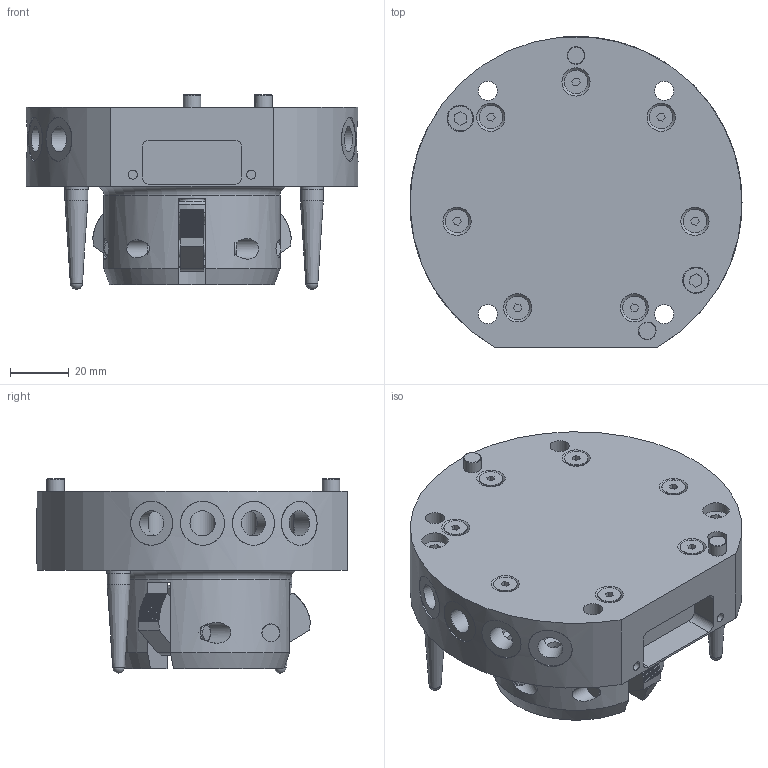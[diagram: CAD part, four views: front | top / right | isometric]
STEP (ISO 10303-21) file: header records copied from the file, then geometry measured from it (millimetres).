
FILE_DESCRIPTION(('Unknown'),'2;1');
FILE_NAME('','Unknown',('Unknown'),('Unknown'),'','Unknown','');
FILE_SCHEMA(('CONFIG_CONTROL_DESIGN'));
Length unit declared in the file: millimetre
Products named in the file (5): 98502-D1002
Bounding box: 113 x 105.72 x 66.21 mm (x, y, z)
Volume: 224429.7 mm3; surface area: 83185.4 mm2
Topology: 5 solids, 13 shells, 599 faces, 1440 edges, 957 vertices
Faces by surface type: plane 352, cylinder 168, cone 57, torus 22
Full cylindrical faces by diameter (mm): 2.5 x2, 3 x2, 3.108 x2, 3.3 x3, 4 x7, 4.2 x2, 4.5 x7, 5 x2, 5.105 x2, 5.5 x2, 5.8 x8, 5.997 x2, 6 x5, 6.069 x2, 6.075 x6, 6.08 x3, 6.5 x4, 7 x2, 7.75 x2, 7.755 x2, 7.965 x2, 8 x7, 8.5 x2, 8.565 x10, 8.785 x8, 9 x11, 10 x1, 10.5 x4, 10.765 x8, 14.986 x10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
Entity records: 24224 total; most frequent: CARTESIAN_POINT 11077, DIRECTION 2570, ORIENTED_EDGE 2244, EDGE_CURVE 1122, EDGE_LOOP 972, AXIS2_PLACEMENT_3D 941, VERTEX_POINT 864, LINE 688
